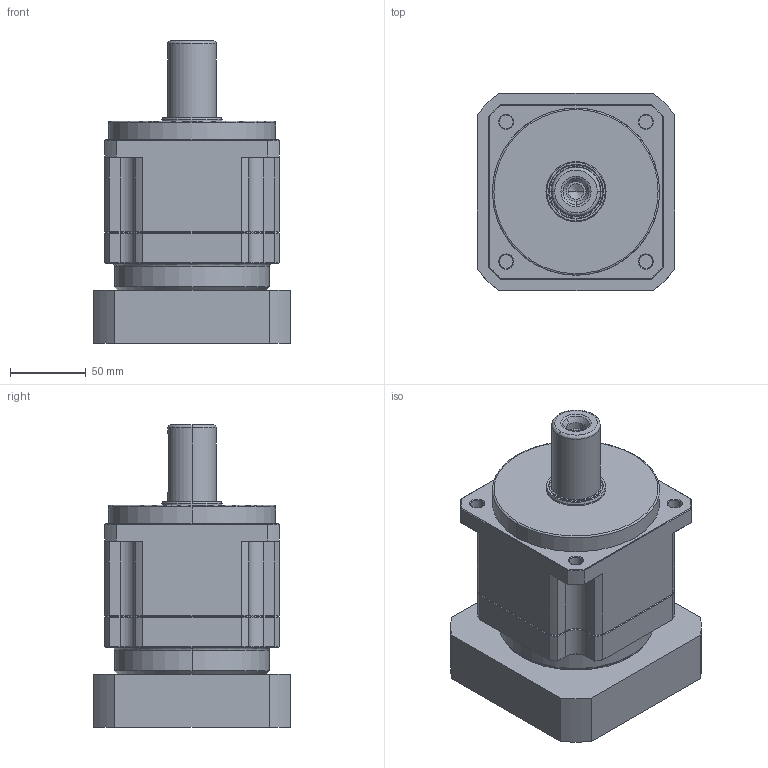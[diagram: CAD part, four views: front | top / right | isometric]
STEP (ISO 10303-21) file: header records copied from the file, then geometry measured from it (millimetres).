
FILE_DESCRIPTION (( 'STEP AP203' ), '1' );
FILE_NAME ('TB115-L1-22-110-145-M8-64-12.STEP', '2020-04-20T08:08:06', ( '' ), ( '' ), 'SwSTEP 2.0', 'SolidWorks 2017', '' );
FILE_SCHEMA (( 'CONFIG_CONTROL_DESIGN' ));
Length unit declared in the file: millimetre
Products named in the file (3): TB115-L1-22-110-145-M8-64-12; TB115-L1-22-110-145-M8-71-12; TB115-000-04-006
Assembly tree (2 placements, depth 2):
  TB115-L1-22-110-145-M8-64-12
    TB115-L1-22-110-145-M8-71-12
    TB115-000-04-006
Bounding box: 130 x 130 x 199 mm (x, y, z)
Volume: 1465244.4 mm3; surface area: 186234.2 mm2
Topology: 4 solids, 4 shells, 427 faces, 1030 edges, 618 vertices
Faces by surface type: cone 144, cylinder 138, plane 131, bspline 14
Entity records: 13918 total; most frequent: CARTESIAN_POINT 3735, DIRECTION 2144, ORIENTED_EDGE 2008, EDGE_CURVE 1004, AXIS2_PLACEMENT_3D 846, VERTEX_POINT 618, EDGE_LOOP 486, LINE 452
